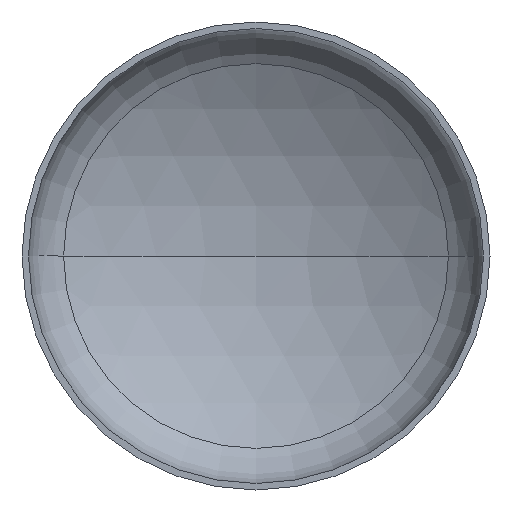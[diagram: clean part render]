
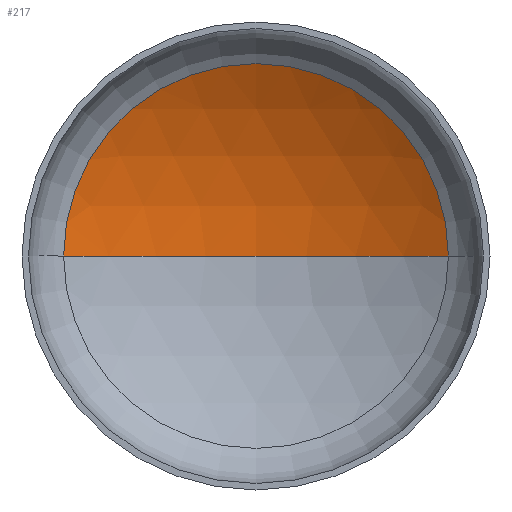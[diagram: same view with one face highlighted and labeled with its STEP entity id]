
A CAD part, front view. The second image highlights one B-rep face of the part: STEP entity #217.
In plain terms, the highlighted spherical face has radius 4000 mm.
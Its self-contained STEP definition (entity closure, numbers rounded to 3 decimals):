
#14 = CARTESIAN_POINT ( 'NONE',  ( 0., 780.53, 0. ) ) ;
#15 = EDGE_LOOP ( 'NONE', ( #86, #56, #99 ) ) ;
#28 = VERTEX_POINT ( 'NONE', #264 ) ;
#41 = AXIS2_PLACEMENT_3D ( 'NONE', #194, #254, #60 ) ;
#50 = AXIS2_PLACEMENT_3D ( 'NONE', #230, #226, #227 ) ;
#55 = AXIS2_PLACEMENT_3D ( 'NONE', #365, #225, #204 ) ;
#56 = ORIENTED_EDGE ( 'NONE', *, *, #141, .T. ) ;
#59 = AXIS2_PLACEMENT_3D ( 'NONE', #14, #389, #251 ) ;
#60 = DIRECTION ( 'NONE',  ( -1., 0., 0. ) ) ;
#80 = VERTEX_POINT ( 'NONE', #261 ) ;
#86 = ORIENTED_EDGE ( 'NONE', *, *, #144, .F. ) ;
#99 = ORIENTED_EDGE ( 'NONE', *, *, #140, .T. ) ;
#102 = VERTEX_POINT ( 'NONE', #240 ) ;
#125 = SPHERICAL_SURFACE ( 'NONE', #41, 4000. ) ;
#140 = EDGE_CURVE ( 'NONE', #80, #102, #154, .T. ) ;
#141 = EDGE_CURVE ( 'NONE', #28, #80, #394, .T. ) ;
#144 = EDGE_CURVE ( 'NONE', #28, #102, #274, .T. ) ;
#154 = CIRCLE ( 'NONE', #59, 2055.728 ) ;
#194 = CARTESIAN_POINT ( 'NONE',  ( 0., -2650.794, 0. ) ) ;
#204 = DIRECTION ( 'NONE',  ( -1., 0., 0. ) ) ;
#217 = ADVANCED_FACE ( 'NONE', ( #387 ), #125, .F. ) ;
#225 = DIRECTION ( 'NONE',  ( 0., 0., -1. ) ) ;
#226 = DIRECTION ( 'NONE',  ( 0., 0., 1. ) ) ;
#227 = DIRECTION ( 'NONE',  ( 1., 0., 0. ) ) ;
#230 = CARTESIAN_POINT ( 'NONE',  ( 0., -2650.794, 0. ) ) ;
#240 = CARTESIAN_POINT ( 'NONE',  ( -2055.728, 780.53, 0. ) ) ;
#251 = DIRECTION ( 'NONE',  ( 1., 0., 0. ) ) ;
#254 = DIRECTION ( 'NONE',  ( 0., 0., -1. ) ) ;
#261 = CARTESIAN_POINT ( 'NONE',  ( 2055.728, 780.53, 0. ) ) ;
#264 = CARTESIAN_POINT ( 'NONE',  ( 0., 1349.206, 0. ) ) ;
#274 = CIRCLE ( 'NONE', #50, 4000. ) ;
#365 = CARTESIAN_POINT ( 'NONE',  ( 0., -2650.794, 0. ) ) ;
#387 = FACE_OUTER_BOUND ( 'NONE', #15, .T. ) ;
#389 = DIRECTION ( 'NONE',  ( 0., -1., 0. ) ) ;
#394 = CIRCLE ( 'NONE', #55, 4000. ) ;
